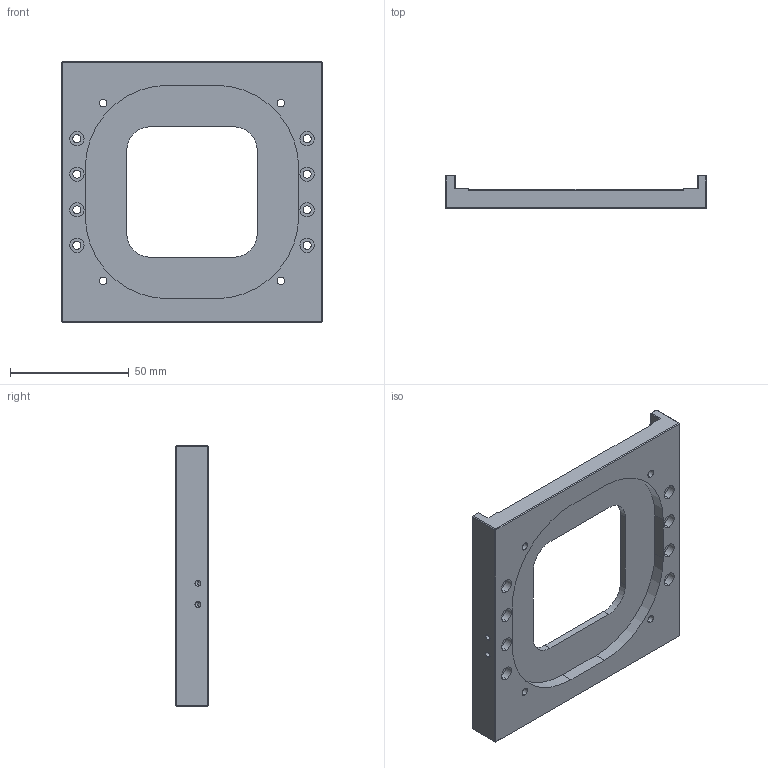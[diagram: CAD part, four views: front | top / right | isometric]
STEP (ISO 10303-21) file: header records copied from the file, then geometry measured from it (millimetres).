
FILE_DESCRIPTION (( 'STEP AP214' ), '1' );
FILE_NAME ('錨璃5.STEP', '2026-10-12T09:37:28', ( '' ), ( '' ), 'SwSTEP 2.0', 'SolidWorks 2024', '' );
FILE_SCHEMA (( 'AUTOMOTIVE_DESIGN' ));
Length unit declared in the file: millimetre
Products named in the file (1): 零件5
Bounding box: 110 x 14 x 110 mm (x, y, z)
Volume: 56948.7 mm3; surface area: 27785.8 mm2
Topology: 1 solids, 1 shells, 131 faces, 316 edges, 194 vertices
Faces by surface type: plane 67, cylinder 60, cone 4
Entity records: 3861 total; most frequent: DIRECTION 696, CARTESIAN_POINT 638, ORIENTED_EDGE 624, EDGE_CURVE 312, AXIS2_PLACEMENT_3D 252, VERTEX_POINT 194, LINE 192, VECTOR 192
